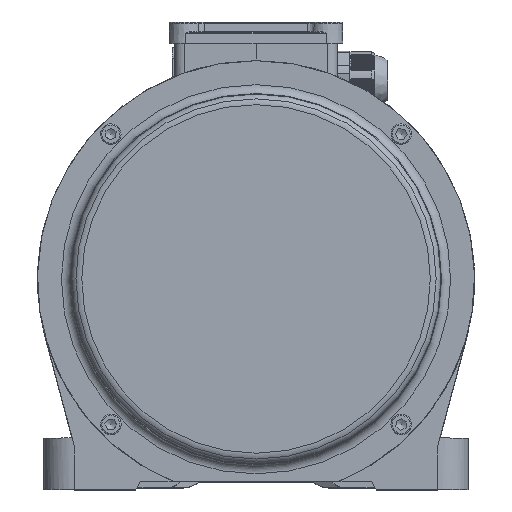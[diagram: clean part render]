
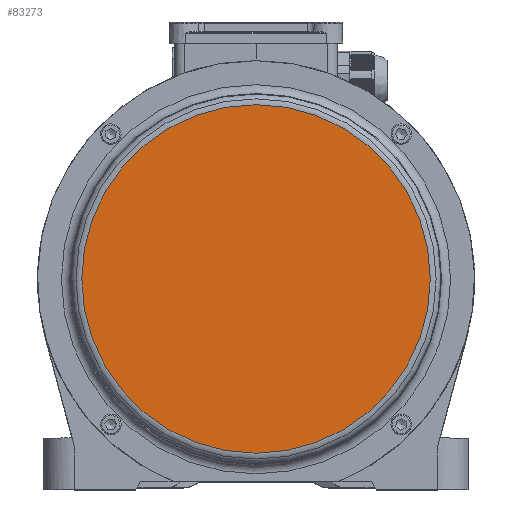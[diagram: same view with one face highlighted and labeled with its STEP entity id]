
A CAD part, top view. The second image highlights one B-rep face of the part: STEP entity #83273.
In plain terms, the highlighted planar face has unit normal (0, 0, 1).
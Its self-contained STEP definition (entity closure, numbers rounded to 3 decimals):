
#6536=PLANE('',#87063);
#10377=FACE_OUTER_BOUND('',#14954,.T.);
#14954=EDGE_LOOP('',(#70470));
#16673=CIRCLE('',#87064,85.3);
#38967=VERTEX_POINT('',#140127);
#49720=EDGE_CURVE('',#38967,#38967,#16673,.T.);
#70470=ORIENTED_EDGE('',*,*,#49720,.F.);
#83273=ADVANCED_FACE('',(#10377),#6536,.T.);
#87063=AXIS2_PLACEMENT_3D('',#140126,#100983,#100984);
#87064=AXIS2_PLACEMENT_3D('',#140128,#100985,#100986);
#100983=DIRECTION('center_axis',(0.,0.,
1.));
#100984=DIRECTION('ref_axis',(1.,0.,0.));
#100985=DIRECTION('center_axis',(0.,0.,
-1.));
#100986=DIRECTION('ref_axis',(0.,1.,0.));
#140126=CARTESIAN_POINT('Origin',(-7.965,41.5,178.8));
#140127=CARTESIAN_POINT('',(77.335,-1.15,178.8));
#140128=CARTESIAN_POINT('Origin',(-7.965,-1.15,178.8));
